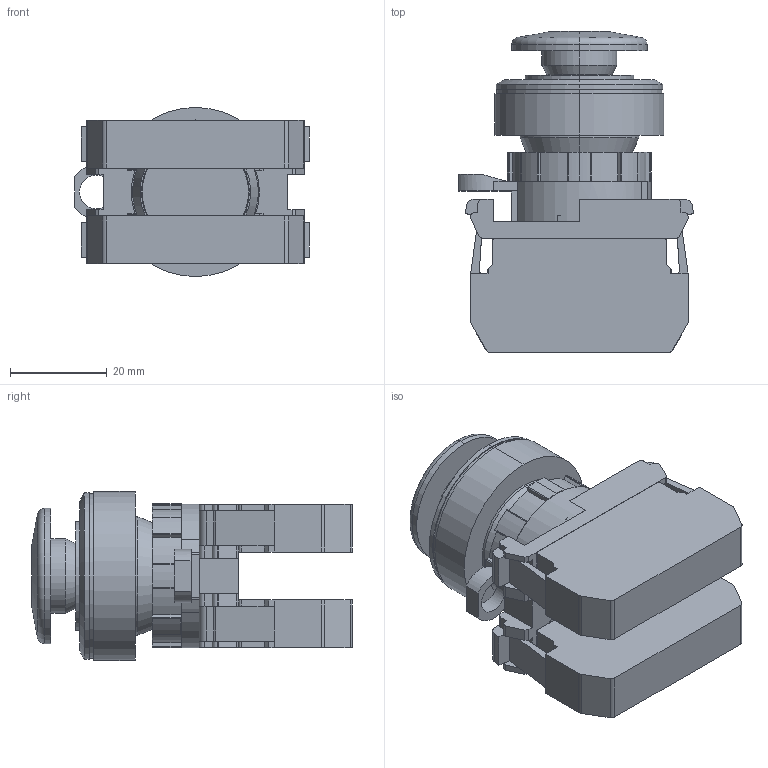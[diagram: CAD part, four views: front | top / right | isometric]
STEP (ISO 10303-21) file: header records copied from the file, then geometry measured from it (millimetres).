
FILE_DESCRIPTION (( 'STEP AP203' ), '1' );
FILE_NAME ('B5P1+B3S+B3T10.STEP', '2013-06-05T12:42:47', ( 'edv' ), ( '' ), 'SwSTEP 2.0', 'SolidWorks 2013', '' );
FILE_SCHEMA (( 'CONFIG_CONTROL_DESIGN' ));
Length unit declared in the file: millimetre
Products named in the file (5): B5P1; B3S_Dummie; B3S Kuppelstück_Dummie; B3T10_Dummie; B5P1+B3S+B3T10
Assembly tree (5 placements, depth 2):
  B5P1+B3S+B3T10
    B5P1
    B3S_Dummie
    B3S Kuppelstück_Dummie
    B3T10_Dummie  x2
Bounding box: 48.6 x 66.4 x 34.99 mm (x, y, z)
Volume: 47404.1 mm3; surface area: 21176.6 mm2
Topology: 5 solids, 5 shells, 404 faces, 1121 edges, 735 vertices
Faces by surface type: plane 254, cylinder 135, cone 10, torus 5
Entity records: 11249 total; most frequent: CARTESIAN_POINT 1917, DIRECTION 1854, ORIENTED_EDGE 1854, EDGE_CURVE 927, VECTOR 662, LINE 662, VERTEX_POINT 607, AXIS2_PLACEMENT_3D 596
